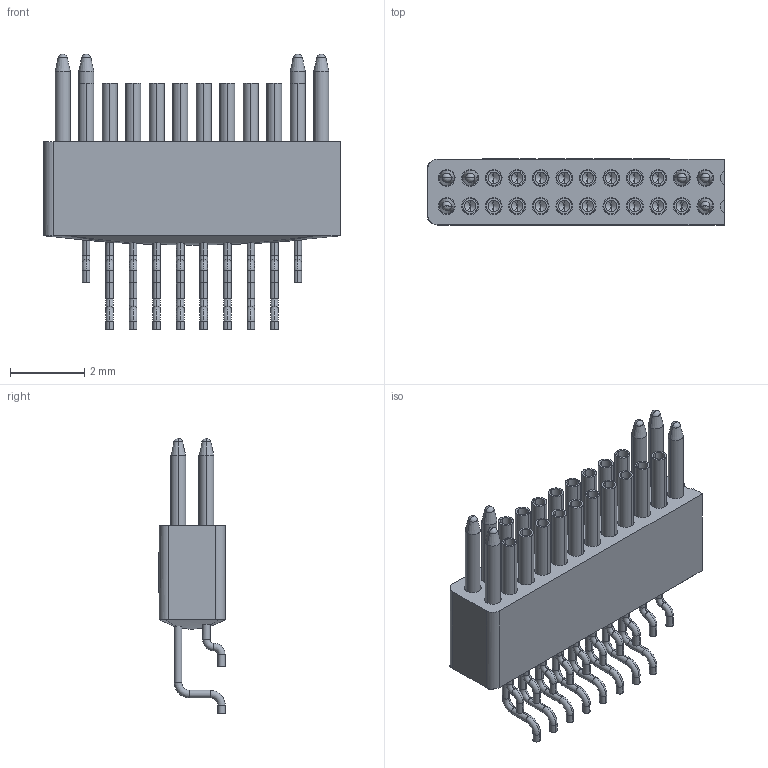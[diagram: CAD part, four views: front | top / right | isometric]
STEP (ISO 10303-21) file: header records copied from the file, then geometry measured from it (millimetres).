
FILE_DESCRIPTION (( 'STEP AP214' ), '1' );
FILE_NAME ('A79017-001 REV D.STEP', '2015-11-05T20:05:01', ( '' ), ( '' ), 'SwSTEP 2.0', 'SolidWorks 2015', '' );
FILE_SCHEMA (( 'AUTOMOTIVE_DESIGN' ));
Length unit declared in the file: inch
Products named in the file (1): A79017-001
Bounding box: 8 x 1.79 x 7.44 mm (x, y, z)
Volume: 38.3 mm3; surface area: 334.1 mm2
Topology: 1 solids, 1 shells, 521 faces, 1172 edges, 693 vertices
Faces by surface type: cylinder 234, plane 131, torus 84, cone 48, bspline 24
Entity records: 15702 total; most frequent: CARTESIAN_POINT 4125, DIRECTION 2564, ORIENTED_EDGE 2264, EDGE_CURVE 1132, AXIS2_PLACEMENT_3D 1052, VERTEX_POINT 693, EDGE_LOOP 601, CIRCLE 554
